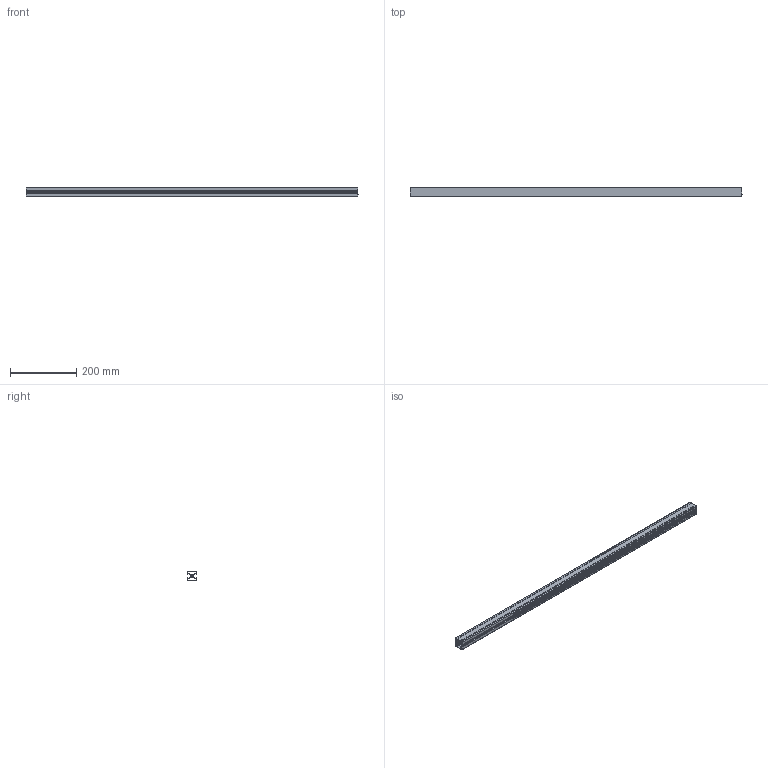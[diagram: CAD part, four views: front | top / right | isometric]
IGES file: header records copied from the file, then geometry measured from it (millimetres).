
Start section: SolidWorks IGES file using analytic representation for surfaces
Bounding box: 1000 x 30 x 30 mm (x, y, z)
Surface area: 319397.2 mm2 (no closed solid volume)
Topology: 0 solids, 0 shells, 114 faces, 1168 edges, 1168 vertices
Faces by surface type: revolution 68, bspline 46
